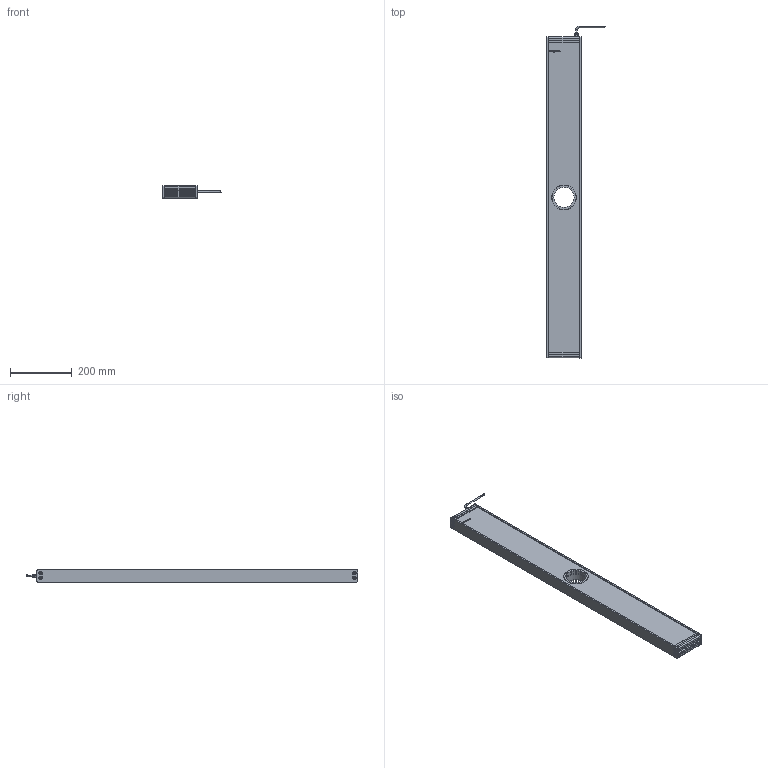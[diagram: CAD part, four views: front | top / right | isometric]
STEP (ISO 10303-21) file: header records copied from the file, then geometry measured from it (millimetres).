
FILE_DESCRIPTION (( 'STEP AP214' ), '1' );
FILE_NAME ('EFFI-FD-100T-1000-M12 Ø65.STEP', '2021-07-02T12:07:46', ( '' ), ( '' ), 'SwSTEP 2.0', 'SolidWorks 2021', '' );
FILE_SCHEMA (( 'AUTOMOTIVE_DESIGN' ));
Length unit declared in the file: millimetre
Products named in the file (11): 000590; EFFI-FD-100T-1000-M12 Ø65; 003776; bord fin modif_lg 436.5 mm; profile modif_lg 99.5 mm; cordon_Avec cable; Pièce2^EFFI-FD-XXXT-YYY-M12 Ø65; 004408; Assemblage Ø65; 004409
Assembly tree (20 placements, depth 3):
  EFFI-FD-100T-1000-M12 Ø65
    profile modif_lg 99.5 mm
    bord fin modif_lg 436.5 mm  x2
    Pièce2^EFFI-FD-XXXT-YYY-M12 Ø65
    profile modif_lg 99.5 mm
    003776  x8
    cordon_Avec cable
    Assemblage Ø65
      004408
      004409
      000590  x3
Bounding box: 187.13 x 1071.15 x 41 mm (x, y, z)
Volume: 3888766.9 mm3; surface area: 538836.2 mm2
Topology: 18 solids, 24 shells, 1002 faces, 2513 edges, 1575 vertices
Faces by surface type: plane 392, cylinder 233, bspline 180, cone 154, torus 35, sphere 8
Entity records: 25569 total; most frequent: CARTESIAN_POINT 8641, ORIENTED_EDGE 3310, DIRECTION 3055, EDGE_CURVE 1659, VERTEX_POINT 1072, AXIS2_PLACEMENT_3D 1032, VECTOR 991, LINE 991
